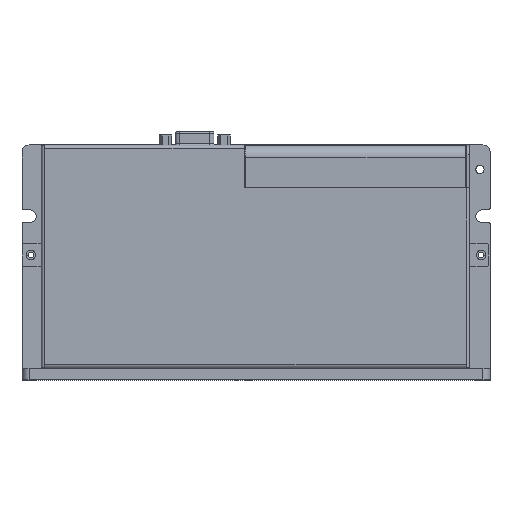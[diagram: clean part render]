
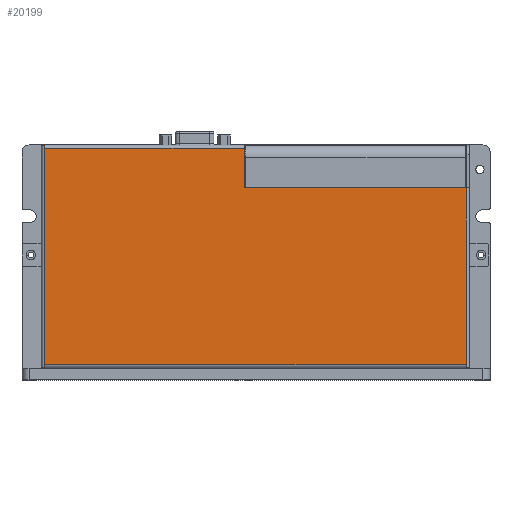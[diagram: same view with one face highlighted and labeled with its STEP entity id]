
A CAD part, top view. The second image highlights one B-rep face of the part: STEP entity #20199.
In plain terms, the highlighted planar face has unit normal (0, 0, 1).
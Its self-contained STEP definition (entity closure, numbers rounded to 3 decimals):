
#16241=DIRECTION('',(-1.,0.,0.));
#16242=VECTOR('',#16241,180.3);
#16243=CARTESIAN_POINT('',(89.9,-46.8,24.8));
#16244=LINE('',#16243,#16242);
#16785=DIRECTION('',(0.,1.,0.));
#16786=VECTOR('',#16785,92.5);
#16787=CARTESIAN_POINT('',(-90.4,-46.8,24.8));
#16788=LINE('',#16787,#16786);
#16811=DIRECTION('',(1.,0.,0.));
#16812=VECTOR('',#16811,85.4);
#16813=CARTESIAN_POINT('',(-90.4,45.7,24.8));
#16814=LINE('',#16813,#16812);
#17146=DIRECTION('',(0.,1.,0.));
#17147=VECTOR('',#17146,16.9);
#17148=CARTESIAN_POINT('',(-5.,28.8,24.8));
#17149=LINE('',#17148,#17147);
#17150=DIRECTION('',(-1.,0.,0.));
#17151=VECTOR('',#17150,94.9);
#17152=CARTESIAN_POINT('',(89.9,28.8,24.8));
#17153=LINE('',#17152,#17151);
#17172=DIRECTION('',(0.,-1.,0.));
#17173=VECTOR('',#17172,75.6);
#17174=CARTESIAN_POINT('',(89.9,28.8,24.8));
#17175=LINE('',#17174,#17173);
#18436=CARTESIAN_POINT('',(-90.4,-46.8,24.8));
#18437=VERTEX_POINT('',#18436);
#18440=CARTESIAN_POINT('',(89.9,-46.8,24.8));
#18441=VERTEX_POINT('',#18440);
#18460=CARTESIAN_POINT('',(-90.4,45.7,24.8));
#18461=VERTEX_POINT('',#18460);
#18876=CARTESIAN_POINT('',(-5.,28.8,24.8));
#18877=CARTESIAN_POINT('',(-5.,45.7,24.8));
#18878=VERTEX_POINT('',#18876);
#18879=VERTEX_POINT('',#18877);
#18888=CARTESIAN_POINT('',(89.9,28.8,24.8));
#18889=VERTEX_POINT('',#18888);
#20185=CARTESIAN_POINT('',(0.,0.,24.8));
#20186=DIRECTION('',(0.,0.,1.));
#20187=DIRECTION('',(1.,0.,0.));
#20188=AXIS2_PLACEMENT_3D('',#20185,#20186,#20187);
#20189=PLANE('',#20188);
#20190=ORIENTED_EDGE('',*,*,#18974,.F.);
#20191=ORIENTED_EDGE('',*,*,#18989,.F.);
#20193=ORIENTED_EDGE('',*,*,#20192,.T.);
#20194=ORIENTED_EDGE('',*,*,#19065,.T.);
#20195=ORIENTED_EDGE('',*,*,#19679,.T.);
#20196=ORIENTED_EDGE('',*,*,#19722,.T.);
#20197=EDGE_LOOP('',(#20190,#20191,#20193,#20194,#20195,#20196));
#20198=FACE_OUTER_BOUND('',#20197,.F.);
#20199=ADVANCED_FACE('',(#20198),#20189,.T.);
#18974=EDGE_CURVE('',#18878,#18879,#17149,.T.);
#18989=EDGE_CURVE('',#18889,#18878,#17153,.T.);
#19065=EDGE_CURVE('',#18441,#18437,#16244,.T.);
#19679=EDGE_CURVE('',#18437,#18461,#16788,.T.);
#19722=EDGE_CURVE('',#18461,#18879,#16814,.T.);
#20192=EDGE_CURVE('',#18889,#18441,#17175,.T.);
